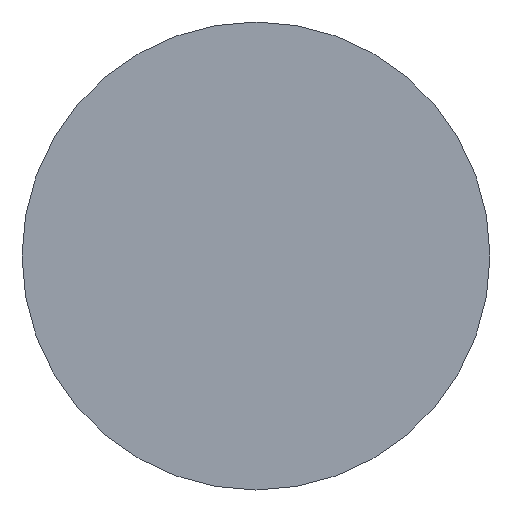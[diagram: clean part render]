
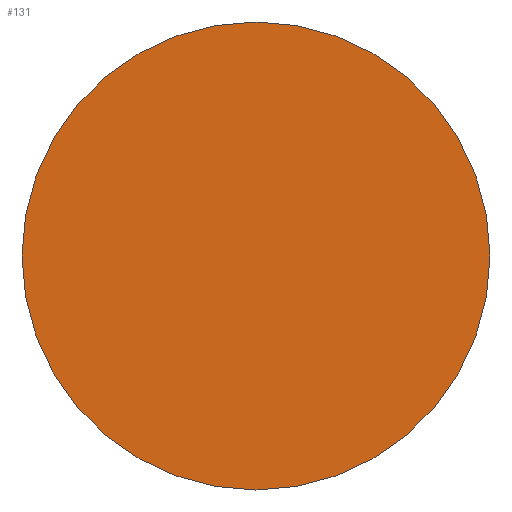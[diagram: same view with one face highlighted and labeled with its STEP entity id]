
A CAD part, left-side view. The second image highlights one B-rep face of the part: STEP entity #131.
In plain terms, the highlighted planar face has unit normal (-1, 0, 0).
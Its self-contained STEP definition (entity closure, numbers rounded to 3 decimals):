
#1 = ORIENTED_EDGE ( 'NONE', *, *, #54, .T. ) ;
#4 = ORIENTED_EDGE ( 'NONE', *, *, #50, .T. ) ;
#27 = CIRCLE ( 'NONE', #43, 5.5 ) ;
#31 = CIRCLE ( 'NONE', #57, 5.5 ) ;
#33 = FACE_OUTER_BOUND ( 'NONE', #136, .T. ) ;
#43 = AXIS2_PLACEMENT_3D ( 'NONE', #113, #111, #110 ) ;
#50 = EDGE_CURVE ( 'NONE', #116, #119, #27, .T. ) ;
#54 = EDGE_CURVE ( 'NONE', #119, #116, #31, .T. ) ;
#57 = AXIS2_PLACEMENT_3D ( 'NONE', #109, #104, #103 ) ;
#60 = AXIS2_PLACEMENT_3D ( 'NONE', #96, #92, #90 ) ;
#90 = DIRECTION ( 'NONE',  ( 0., 0., 1. ) ) ;
#92 = DIRECTION ( 'NONE',  ( -1., 0., 0. ) ) ;
#95 = PLANE ( 'NONE',  #60 ) ;
#96 = CARTESIAN_POINT ( 'NONE',  ( -404.5, 0., 0. ) ) ;
#102 = CARTESIAN_POINT ( 'NONE',  ( -404.5, 0., -5.5 ) ) ;
#103 = DIRECTION ( 'NONE',  ( 0., 0., 1. ) ) ;
#104 = DIRECTION ( 'NONE',  ( -1., 0., 0. ) ) ;
#106 = CARTESIAN_POINT ( 'NONE',  ( -404.5, 0., 5.5 ) ) ;
#109 = CARTESIAN_POINT ( 'NONE',  ( -404.5, 0., 0. ) ) ;
#110 = DIRECTION ( 'NONE',  ( 0., 0., 1. ) ) ;
#111 = DIRECTION ( 'NONE',  ( -1., 0., 0. ) ) ;
#113 = CARTESIAN_POINT ( 'NONE',  ( -404.5, 0., 0. ) ) ;
#116 = VERTEX_POINT ( 'NONE', #106 ) ;
#119 = VERTEX_POINT ( 'NONE', #102 ) ;
#131 = ADVANCED_FACE ( 'NONE', ( #33 ), #95, .T. ) ;
#136 = EDGE_LOOP ( 'NONE', ( #4, #1 ) ) ;
